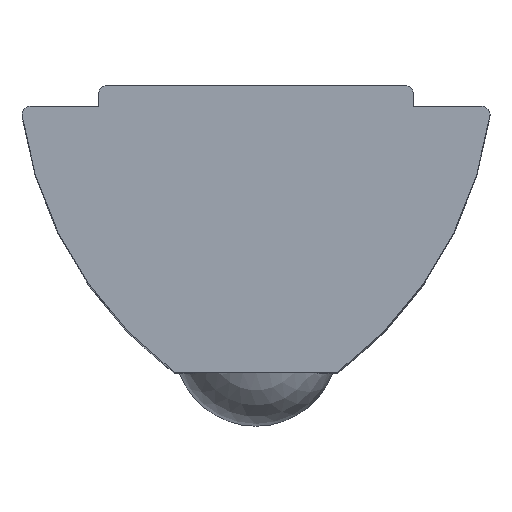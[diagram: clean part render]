
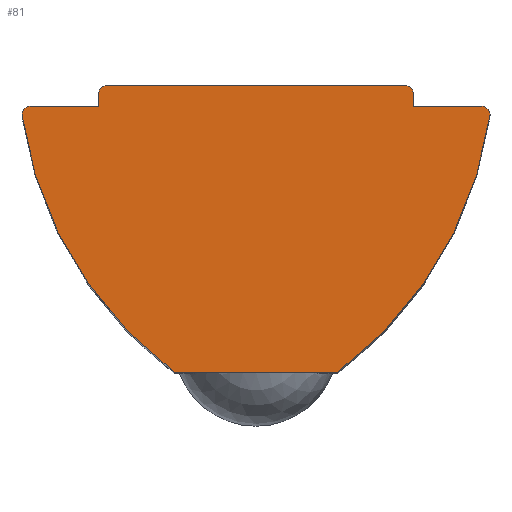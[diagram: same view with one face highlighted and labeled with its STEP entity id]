
A CAD part, top view. The second image highlights one B-rep face of the part: STEP entity #81.
In plain terms, the highlighted planar face has unit normal (0, 0, 1).
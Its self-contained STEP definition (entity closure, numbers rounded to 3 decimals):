
#9 = AXIS2_PLACEMENT_3D ( 'NONE', #809, #765, #764 ) ;
#31 = CIRCLE ( 'NONE', #561, 0.2 ) ;
#36 = DIRECTION ( 'NONE',  ( 1., 0., 0. ) ) ;
#37 = CIRCLE ( 'NONE', #617, 0.2 ) ;
#39 = DIRECTION ( 'NONE',  ( 0., 0., -1. ) ) ;
#46 = AXIS2_PLACEMENT_3D ( 'NONE', #795, #787, #780 ) ;
#47 = CIRCLE ( 'NONE', #567, 0.2 ) ;
#50 = CIRCLE ( 'NONE', #563, 0.2 ) ;
#55 = VECTOR ( 'NONE', #784, 1000. ) ;
#63 = DIRECTION ( 'NONE',  ( -1., 0., 0. ) ) ;
#79 = EDGE_CURVE ( 'NONE', #843, #581, #97, .T. ) ;
#81 = ADVANCED_FACE ( 'NONE', ( #376 ), #774, .T. ) ;
#84 = CARTESIAN_POINT ( 'NONE',  ( -2., 0., 10. ) ) ;
#97 = CIRCLE ( 'NONE', #46, 0.2 ) ;
#100 = ORIENTED_EDGE ( 'NONE', *, *, #262, .T. ) ;
#104 = CARTESIAN_POINT ( 'NONE',  ( -3.685, 7.611, 10. ) ) ;
#111 = LINE ( 'NONE', #840, #55 ) ;
#113 = ORIENTED_EDGE ( 'NONE', *, *, #312, .T. ) ;
#131 = EDGE_CURVE ( 'NONE', #565, #662, #278, .T. ) ;
#134 = CARTESIAN_POINT ( 'NONE',  ( 0., 6.5, 10. ) ) ;
#144 = VECTOR ( 'NONE', #63, 1000. ) ;
#147 = LINE ( 'NONE', #134, #144 ) ;
#151 = EDGE_CURVE ( 'NONE', #404, #725, #275, .T. ) ;
#154 = DIRECTION ( 'NONE',  ( 1., 0., 0. ) ) ;
#181 = CIRCLE ( 'NONE', #730, 9.5 ) ;
#190 = VECTOR ( 'NONE', #154, 1000. ) ;
#194 = EDGE_CURVE ( 'NONE', #445, #404, #220, .T. ) ;
#196 = LINE ( 'NONE', #229, #190 ) ;
#212 = EDGE_CURVE ( 'NONE', #581, #302, #215, .T. ) ;
#215 = CIRCLE ( 'NONE', #779, 9.5 ) ;
#220 = LINE ( 'NONE', #439, #233 ) ;
#229 = CARTESIAN_POINT ( 'NONE',  ( 0., 0., 10. ) ) ;
#233 = VECTOR ( 'NONE', #432, 1000. ) ;
#262 = EDGE_CURVE ( 'NONE', #302, #405, #196, .T. ) ;
#269 = VECTOR ( 'NONE', #628, 1000. ) ;
#275 = LINE ( 'NONE', #633, #269 ) ;
#277 = VECTOR ( 'NONE', #653, 1000. ) ;
#278 = LINE ( 'NONE', #709, #277 ) ;
#302 = VERTEX_POINT ( 'NONE', #84 ) ;
#307 = EDGE_CURVE ( 'NONE', #460, #405, #181, .T. ) ;
#312 = EDGE_CURVE ( 'NONE', #726, #716, #147, .T. ) ;
#321 = CARTESIAN_POINT ( 'NONE',  ( 3.85, 6.8, 10. ) ) ;
#323 = CARTESIAN_POINT ( 'NONE',  ( -5.722, 6.3, 10. ) ) ;
#324 = DIRECTION ( 'NONE',  ( 1., 0., 0. ) ) ;
#330 = DIRECTION ( 'NONE',  ( 0., 0., 1. ) ) ;
#333 = ORIENTED_EDGE ( 'NONE', *, *, #408, .T. ) ;
#340 = CARTESIAN_POINT ( 'NONE',  ( 3.685, 7.611, 10. ) ) ;
#347 = ORIENTED_EDGE ( 'NONE', *, *, #384, .T. ) ;
#349 = ORIENTED_EDGE ( 'NONE', *, *, #131, .T. ) ;
#353 = ORIENTED_EDGE ( 'NONE', *, *, #151, .F. ) ;
#376 = FACE_OUTER_BOUND ( 'NONE', #549, .T. ) ;
#382 = CARTESIAN_POINT ( 'NONE',  ( 5.522, 6.5, 10. ) ) ;
#384 = EDGE_CURVE ( 'NONE', #716, #817, #111, .T. ) ;
#391 = EDGE_CURVE ( 'NONE', #445, #843, #37, .T. ) ;
#392 = EDGE_CURVE ( 'NONE', #460, #726, #47, .T. ) ;
#399 = EDGE_CURVE ( 'NONE', #817, #565, #50, .T. ) ;
#404 = VERTEX_POINT ( 'NONE', #767 ) ;
#405 = VERTEX_POINT ( 'NONE', #736 ) ;
#408 = EDGE_CURVE ( 'NONE', #662, #725, #31, .T. ) ;
#428 = CARTESIAN_POINT ( 'NONE',  ( -3.65, 7., 10. ) ) ;
#431 = CARTESIAN_POINT ( 'NONE',  ( 3.85, 6.5, 10. ) ) ;
#432 = DIRECTION ( 'NONE',  ( 1., 0., 0. ) ) ;
#435 = CARTESIAN_POINT ( 'NONE',  ( -5.72, 6.272, 10. ) ) ;
#439 = CARTESIAN_POINT ( 'NONE',  ( 0., 6.5, 10. ) ) ;
#445 = VERTEX_POINT ( 'NONE', #703 ) ;
#460 = VERTEX_POINT ( 'NONE', #711 ) ;
#473 = CARTESIAN_POINT ( 'NONE',  ( 3.65, 7., 10. ) ) ;
#479 = CARTESIAN_POINT ( 'NONE',  ( -3.85, 6.8, 10. ) ) ;
#549 = EDGE_LOOP ( 'NONE', ( #684, #718, #772, #813, #100, #844, #754, #113, #347, #638, #349, #333, #353 ) ) ;
#561 = AXIS2_PLACEMENT_3D ( 'NONE', #721, #719, #714 ) ;
#563 = AXIS2_PLACEMENT_3D ( 'NONE', #748, #742, #738 ) ;
#565 = VERTEX_POINT ( 'NONE', #473 ) ;
#567 = AXIS2_PLACEMENT_3D ( 'NONE', #760, #758, #757 ) ;
#581 = VERTEX_POINT ( 'NONE', #435 ) ;
#617 = AXIS2_PLACEMENT_3D ( 'NONE', #771, #770, #769 ) ;
#628 = DIRECTION ( 'NONE',  ( 0., 1., 0. ) ) ;
#633 = CARTESIAN_POINT ( 'NONE',  ( -3.85, 0., 10. ) ) ;
#638 = ORIENTED_EDGE ( 'NONE', *, *, #399, .T. ) ;
#653 = DIRECTION ( 'NONE',  ( -1., 0., 0. ) ) ;
#662 = VERTEX_POINT ( 'NONE', #428 ) ;
#684 = ORIENTED_EDGE ( 'NONE', *, *, #194, .F. ) ;
#703 = CARTESIAN_POINT ( 'NONE',  ( -5.522, 6.5, 10. ) ) ;
#709 = CARTESIAN_POINT ( 'NONE',  ( 0., 7., 10. ) ) ;
#711 = CARTESIAN_POINT ( 'NONE',  ( 5.72, 6.272, 10. ) ) ;
#714 = DIRECTION ( 'NONE',  ( 1., 0., 0. ) ) ;
#716 = VERTEX_POINT ( 'NONE', #431 ) ;
#718 = ORIENTED_EDGE ( 'NONE', *, *, #391, .T. ) ;
#719 = DIRECTION ( 'NONE',  ( 0., 0., 1. ) ) ;
#721 = CARTESIAN_POINT ( 'NONE',  ( -3.65, 6.8, 10. ) ) ;
#725 = VERTEX_POINT ( 'NONE', #479 ) ;
#726 = VERTEX_POINT ( 'NONE', #382 ) ;
#730 = AXIS2_PLACEMENT_3D ( 'NONE', #104, #39, #36 ) ;
#736 = CARTESIAN_POINT ( 'NONE',  ( 2., 0., 10. ) ) ;
#738 = DIRECTION ( 'NONE',  ( 1., 0., 0. ) ) ;
#742 = DIRECTION ( 'NONE',  ( 0., 0., 1. ) ) ;
#748 = CARTESIAN_POINT ( 'NONE',  ( 3.65, 6.8, 10. ) ) ;
#754 = ORIENTED_EDGE ( 'NONE', *, *, #392, .T. ) ;
#757 = DIRECTION ( 'NONE',  ( 1., 0., 0. ) ) ;
#758 = DIRECTION ( 'NONE',  ( 0., 0., 1. ) ) ;
#760 = CARTESIAN_POINT ( 'NONE',  ( 5.522, 6.3, 10. ) ) ;
#764 = DIRECTION ( 'NONE',  ( 1., 0., 0. ) ) ;
#765 = DIRECTION ( 'NONE',  ( 0., 0., 1. ) ) ;
#767 = CARTESIAN_POINT ( 'NONE',  ( -3.85, 6.5, 10. ) ) ;
#769 = DIRECTION ( 'NONE',  ( 1., 0., 0. ) ) ;
#770 = DIRECTION ( 'NONE',  ( 0., 0., 1. ) ) ;
#771 = CARTESIAN_POINT ( 'NONE',  ( -5.522, 6.3, 10. ) ) ;
#772 = ORIENTED_EDGE ( 'NONE', *, *, #79, .T. ) ;
#774 = PLANE ( 'NONE',  #9 ) ;
#779 = AXIS2_PLACEMENT_3D ( 'NONE', #340, #330, #324 ) ;
#780 = DIRECTION ( 'NONE',  ( 1., 0., 0. ) ) ;
#784 = DIRECTION ( 'NONE',  ( 0., 1., 0. ) ) ;
#787 = DIRECTION ( 'NONE',  ( 0., 0., 1. ) ) ;
#795 = CARTESIAN_POINT ( 'NONE',  ( -5.522, 6.3, 10. ) ) ;
#809 = CARTESIAN_POINT ( 'NONE',  ( 0., 0., 10. ) ) ;
#813 = ORIENTED_EDGE ( 'NONE', *, *, #212, .T. ) ;
#817 = VERTEX_POINT ( 'NONE', #321 ) ;
#840 = CARTESIAN_POINT ( 'NONE',  ( 3.85, 0., 10. ) ) ;
#843 = VERTEX_POINT ( 'NONE', #323 ) ;
#844 = ORIENTED_EDGE ( 'NONE', *, *, #307, .F. ) ;
